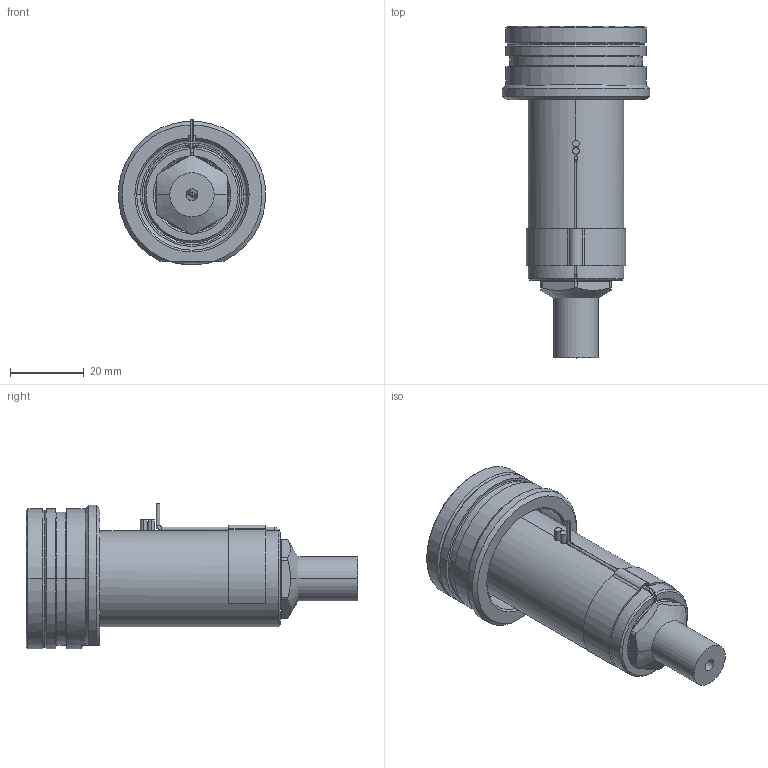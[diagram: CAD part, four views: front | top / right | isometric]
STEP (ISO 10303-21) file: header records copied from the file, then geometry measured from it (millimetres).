
FILE_DESCRIPTION((''),'2;1');
FILE_NAME('EO08_PG-FBE_STD_060_SW','2024-02-19T11:53:47',('sundharh'),(''),'CREO PARAMETRIC BY PTC INC, 2023154','CREO PARAMETRIC BY PTC INC, 2023154','');
FILE_SCHEMA(('CONFIG_CONTROL_DESIGN'));
Length unit declared in the file: millimetre
Products named in the file (1): EO08_PG-FBE_STD_060_SW
Bounding box: 39.88 x 90 x 39.52 mm (x, y, z)
Volume: 45999.1 mm3; surface area: 15808.3 mm2
Topology: 1 solids, 1 shells, 210 faces, 558 edges, 344 vertices
Faces by surface type: cylinder 81, plane 58, cone 45, torus 19, bspline 4, sphere 3
Entity records: 8015 total; most frequent: CARTESIAN_POINT 2681, DIRECTION 1176, ORIENTED_EDGE 1104, EDGE_CURVE 552, AXIS2_PLACEMENT_3D 491, VERTEX_POINT 344, CIRCLE 285, EDGE_LOOP 228
